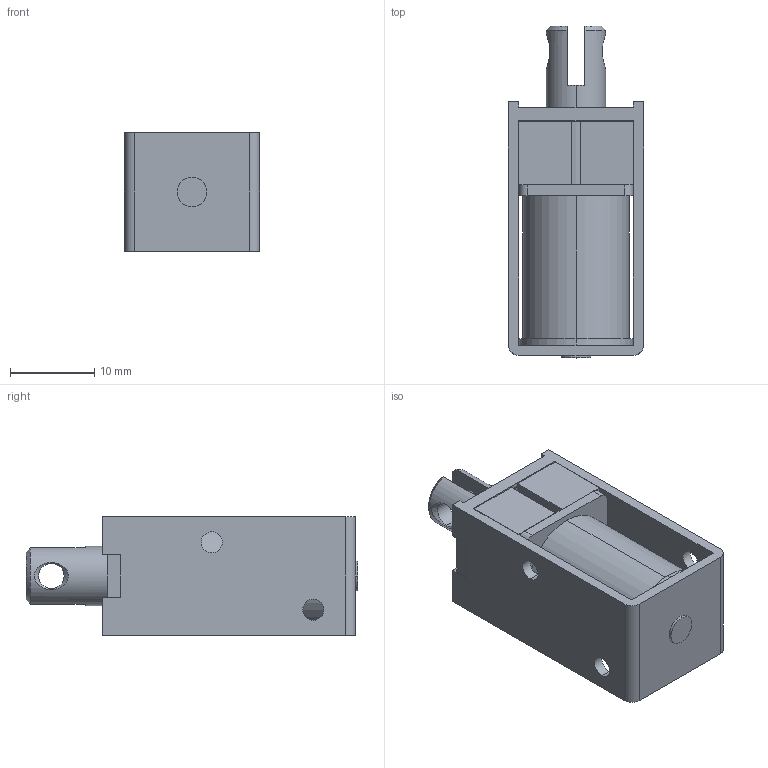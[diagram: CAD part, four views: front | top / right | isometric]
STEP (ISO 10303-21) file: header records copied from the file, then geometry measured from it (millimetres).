
FILE_DESCRIPTION (( 'STEP AP203' ), '1' );
FILE_NAME ('w_cd0730.STEP', '2014-07-25T04:18:53', ( 'jiba' ), ( 'Hewlett-Packard Company' ), 'SwSTEP 2.0', 'SolidWorks 2014', '' );
FILE_SCHEMA (( 'CONFIG_CONTROL_DESIGN' ));
Length unit declared in the file: millimetre
Products named in the file (3): Part9^w_cd0730; w_20730034A; w_cd0730
Assembly tree (2 placements, depth 2):
  w_cd0730
    Part9^w_cd0730
    w_20730034A
Bounding box: 16 x 39.3 x 14 mm (x, y, z)
Volume: 5497.8 mm3; surface area: 6250.5 mm2
Topology: 2 solids, 2 shells, 110 faces, 295 edges, 192 vertices
Faces by surface type: plane 63, cylinder 41, cone 6
Entity records: 3890 total; most frequent: CARTESIAN_POINT 714, DIRECTION 611, ORIENTED_EDGE 590, EDGE_CURVE 295, AXIS2_PLACEMENT_3D 209, VECTOR 193, LINE 193, VERTEX_POINT 192
